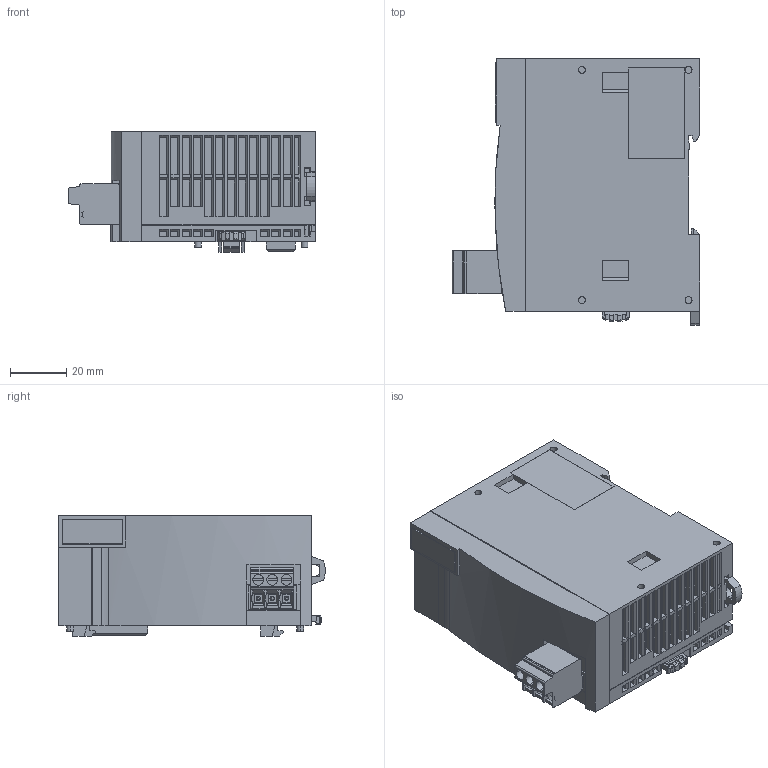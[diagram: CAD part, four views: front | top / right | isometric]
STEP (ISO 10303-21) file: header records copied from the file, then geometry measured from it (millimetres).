
FILE_DESCRIPTION (( 'STEP AP214' ), '1' );
FILE_NAME ('OUTSIDE-FC6A-EXM2.step', '2016-01-12T05:25:15', ( '' ), ( '' ), 'SwSTEP 2.0', 'SolidWorks 2014', '' );
FILE_SCHEMA (( 'AUTOMOTIVE_DESIGN' ));
Length unit declared in the file: millimetre
Products named in the file (3): OUTSIDE-FC6A-EXM2; OUTSIDE-FC6A-EX-DIN-RAIL-HOOK; OUTSIDE-FC6A-EXM2-BODY
Assembly tree (2 placements, depth 2):
  OUTSIDE-FC6A-EXM2
    OUTSIDE-FC6A-EXM2-BODY
    OUTSIDE-FC6A-EX-DIN-RAIL-HOOK
Bounding box: 88.2 x 95.11 x 43 mm (x, y, z)
Volume: 226189.9 mm3; surface area: 55328.1 mm2
Topology: 2 solids, 2 shells, 1426 faces, 3945 edges, 2586 vertices
Faces by surface type: plane 1196, cylinder 158, cone 41, bspline 27, sphere 4
Entity records: 55752 total; most frequent: CARTESIAN_POINT 12931, ORIENTED_EDGE 7860, DIRECTION 6301, EDGE_CURVE 3930, VECTOR 3087, LINE 3087, VERTEX_POINT 2582, AXIS2_PLACEMENT_3D 1607
